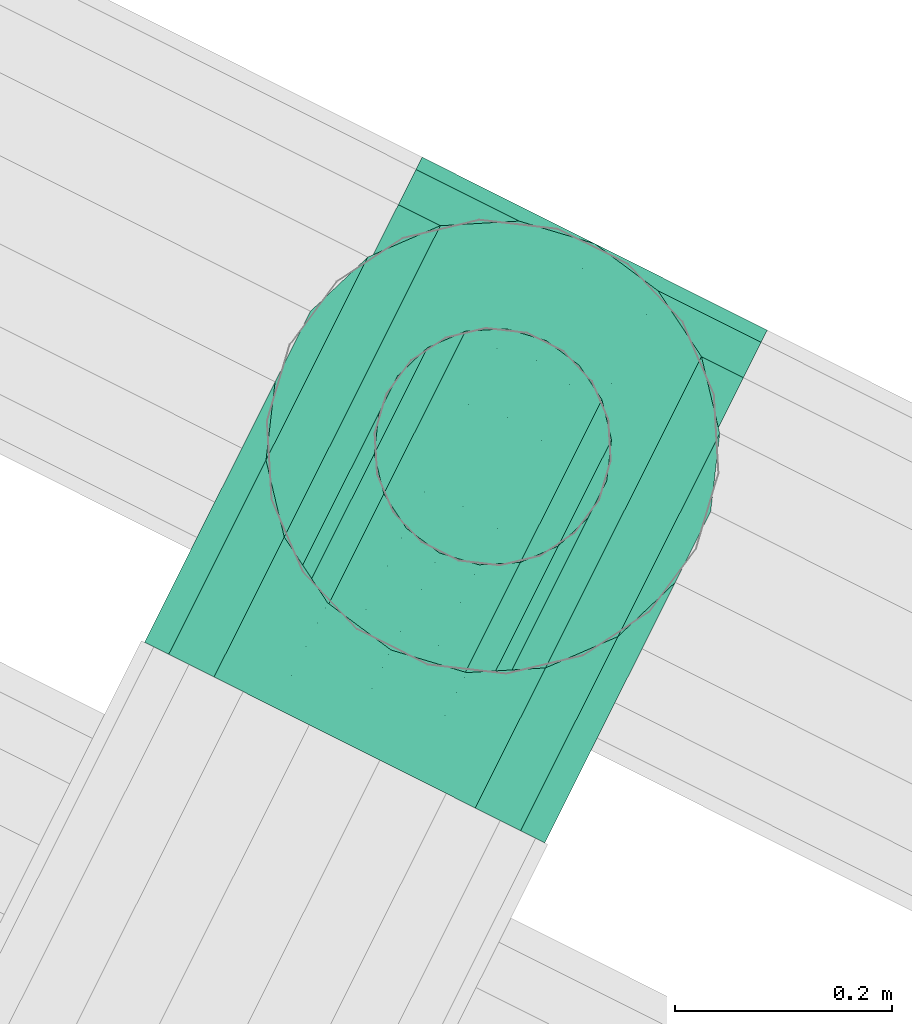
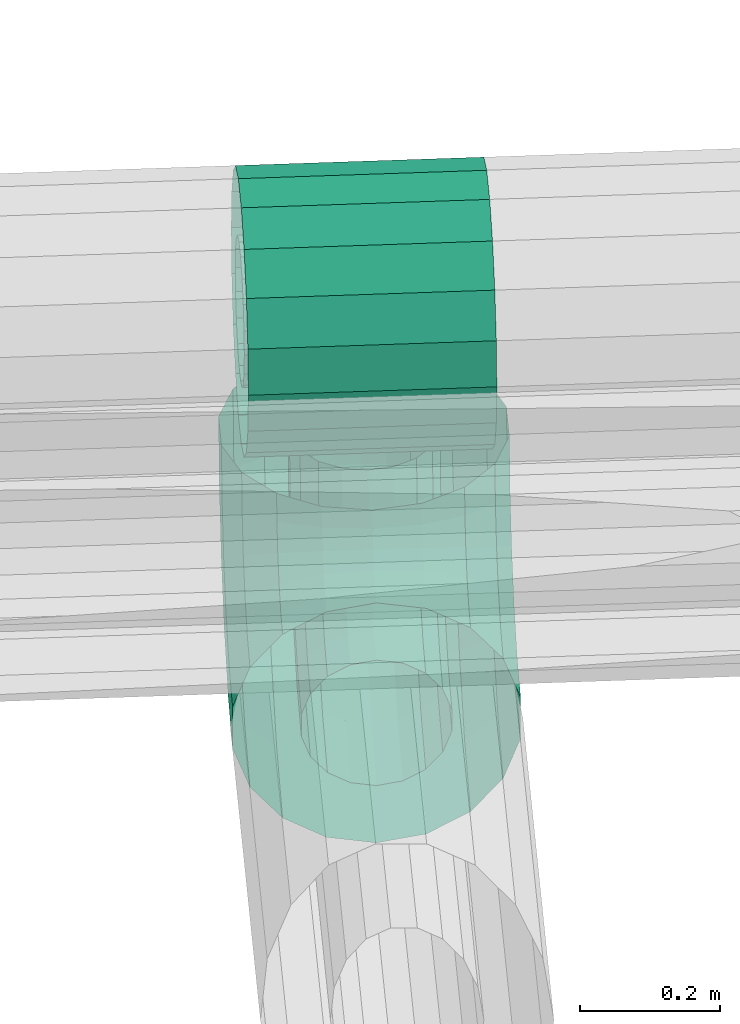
# One storey, part 83 of 152: 1 flow fitting, 1 flow segment.
"""IFC2X3 building model written with IfcOpenShell, lengths in metres."""

from ifc_helpers import new_model, si_unit, derived_unit, direction, frame, origin, place, context, subcontext, project, spatial, face_set, surface_model, source, transform, mapped, material, type_object, type_shapes, element, save


model = new_model("IFC2X3")

# Units and contexts
model_context = context("Model", 3, precision=5.2338327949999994e-05, world=origin(), true_north=direction((0.0, 1.0)))
body_context = subcontext(model_context, "Body", "Model", "MODEL_VIEW")
ifc_project = project(units=[si_unit("LENGTHUNIT", "METRE"), si_unit("AREAUNIT", "SQUARE_METRE"), si_unit("VOLUMEUNIT", "CUBIC_METRE"), si_unit("MASSUNIT", "GRAM", prefix="KILO"), si_unit("PLANEANGLEUNIT", "RADIAN"), derived_unit("THERMALTRANSMITTANCEUNIT", [(si_unit("MASSUNIT", "GRAM", prefix="KILO"), 1), (si_unit("THERMODYNAMICTEMPERATUREUNIT", "KELVIN"), -1), (si_unit("TIMEUNIT", "SECOND"), -3)])], contexts=[model_context])

# Site, building, storey
site_placement = place(None, frame((0.0, 0.0, 0.0), z_axis=(0.0, 0.0, 1.0), x_axis=(0.8939966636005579, -0.4480736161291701, 0.0)))
site = spatial("IfcSite", under=ifc_project, at=site_placement, Name="Default", CompositionType="ELEMENT")
building_placement = place(site_placement, origin())
building = spatial("IfcBuilding", under=site, at=building_placement, CompositionType="ELEMENT")
storey_placement = place(building_placement, frame((0.0, 0.0, 2.7499999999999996)))
storey = spatial("IfcBuildingStorey", under=building, at=storey_placement, Name="1. Obergeschoss", CompositionType="ELEMENT", Elevation=2.7499999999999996)

# Flow fitting
ifc_material = material(Name="IfcSurfaceStyle #1741")
distribution_element_type_1 = type_object("IfcDistributionElementType", Name="Abzweigstück 249742:Abzweigstück 249742", material=ifc_material)
shared_shape_1 = source(origin(), body_context, "Body", "SurfaceModel", [
    surface_model("IfcFaceBasedSurfaceModel", [(28.723924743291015, 11.740486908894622, 5.635640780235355), (28.723924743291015, 11.747093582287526, 5.673109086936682), (28.367924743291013, 11.747093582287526, 5.673109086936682), (28.367924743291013, 11.740486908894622, 5.635640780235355), (28.723924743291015, 11.76611674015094, 5.706058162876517), (28.367924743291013, 11.76611674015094, 5.706058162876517), (28.723924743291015, 11.795261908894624, 5.730513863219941), (28.367924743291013, 11.795261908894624, 5.730513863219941), (28.723924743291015, 11.83101375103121, 5.743526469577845), (28.367924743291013, 11.83101375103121, 5.743526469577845), (28.723924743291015, 11.869060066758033, 5.743526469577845), (28.367924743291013, 11.869060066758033, 5.743526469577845), (28.723924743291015, 11.904811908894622, 5.730513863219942), (28.367924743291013, 11.904811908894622, 5.730513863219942), (28.723924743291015, 11.93395707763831, 5.706058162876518), (28.367924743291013, 11.93395707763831, 5.706058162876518), (28.723924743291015, 11.952980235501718, 5.673109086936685), (28.367924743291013, 11.952980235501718, 5.673109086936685), (28.723924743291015, 11.959586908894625, 5.635640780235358), (28.367924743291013, 11.959586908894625, 5.635640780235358), (28.723924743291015, 11.95298023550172, 5.5981724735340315), (28.367924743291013, 11.95298023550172, 5.5981724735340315), (28.723924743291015, 11.93395707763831, 5.565223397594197), (28.367924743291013, 11.93395707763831, 5.565223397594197), (28.723924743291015, 11.904811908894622, 5.540767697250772), (28.367924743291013, 11.904811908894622, 5.540767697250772), (28.723924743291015, 11.869060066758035, 5.52775509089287), (28.367924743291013, 11.869060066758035, 5.52775509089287), (28.723924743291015, 11.831013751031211, 5.52775509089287), (28.367924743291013, 11.831013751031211, 5.52775509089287), (28.723924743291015, 11.795261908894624, 5.540767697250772), (28.367924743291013, 11.795261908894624, 5.540767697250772), (28.723924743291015, 11.76611674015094, 5.5652233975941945), (28.367924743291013, 11.76611674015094, 5.5652233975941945), (28.723924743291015, 11.747093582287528, 5.598172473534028), (28.367924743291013, 11.747093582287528, 5.598172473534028), (28.723924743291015, 11.640486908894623, 5.635640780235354), (28.723924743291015, 11.653124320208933, 5.707311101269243), (28.367924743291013, 11.653124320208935, 5.707311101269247), (28.367924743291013, 11.640486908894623, 5.635640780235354), (28.723924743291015, 11.689512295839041, 5.770336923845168), (28.367924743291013, 11.689512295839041, 5.770336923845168), (28.723924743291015, 11.745261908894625, 5.8171164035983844), (28.367924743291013, 11.745261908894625, 5.8171164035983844), (28.723924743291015, 11.813648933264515, 5.842007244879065), (28.367924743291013, 11.813648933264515, 5.842007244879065), (28.723924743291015, 11.886424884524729, 5.842007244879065), (28.367924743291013, 11.886424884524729, 5.842007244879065), (28.723924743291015, 11.954811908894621, 5.817116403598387), (28.367924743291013, 11.954811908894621, 5.817116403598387), (28.723924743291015, 12.010561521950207, 5.770336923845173), (28.367924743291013, 12.010561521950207, 5.770336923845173), (28.723924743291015, 12.04694949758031, 5.707311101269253), (28.367924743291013, 12.04694949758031, 5.707311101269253), (28.723924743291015, 12.059586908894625, 5.635640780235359), (28.367924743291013, 12.059586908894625, 5.635640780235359), (28.723924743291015, 12.04694949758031, 5.563970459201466), (28.367924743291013, 12.04694949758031, 5.563970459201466), (28.723924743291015, 12.010561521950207, 5.500944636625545), (28.367924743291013, 12.010561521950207, 5.500944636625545), (28.723924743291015, 11.954811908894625, 5.454165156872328), (28.367924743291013, 11.954811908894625, 5.454165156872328), (28.723924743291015, 11.88642488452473, 5.429274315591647), (28.367924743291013, 11.88642488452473, 5.429274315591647), (28.723924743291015, 11.813648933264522, 5.429274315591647), (28.367924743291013, 11.813648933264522, 5.429274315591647), (28.723924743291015, 11.745261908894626, 5.4541651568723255), (28.367924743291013, 11.745261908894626, 5.4541651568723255), (28.723924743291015, 11.689512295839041, 5.50094463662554), (28.367924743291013, 11.689512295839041, 5.50094463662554), (28.723924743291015, 11.653124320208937, 5.563970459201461), (28.367924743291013, 11.653124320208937, 5.563970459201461), (28.436374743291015, 11.850036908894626, 5.526090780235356), (28.442981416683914, 11.88750521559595, 5.532697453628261), (28.44298141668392, 11.887505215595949, 5.457640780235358), (28.436374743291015, 11.850036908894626, 5.457640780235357), (28.462004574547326, 11.920454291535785, 5.551720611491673), (28.462004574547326, 11.920454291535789, 5.457640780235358), (28.491149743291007, 11.94490999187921, 5.580865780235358), (28.49114974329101, 11.944909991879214, 5.457640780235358), (28.5269015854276, 11.957922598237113, 5.616617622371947), (28.5269015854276, 11.957922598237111, 5.457640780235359), (28.564947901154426, 11.957922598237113, 5.616617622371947), (28.564947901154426, 11.957922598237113, 5.457640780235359), (28.600699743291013, 11.944909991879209, 5.580865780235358), (28.600699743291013, 11.94490999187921, 5.457640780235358), (28.6298449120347, 11.920454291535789, 5.551720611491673), (28.629844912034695, 11.920454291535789, 5.457640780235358), (28.64886806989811, 11.887505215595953, 5.532697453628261), (28.648868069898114, 11.887505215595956, 5.457640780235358), (28.655474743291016, 11.850036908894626, 5.526090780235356), (28.655474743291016, 11.850036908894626, 5.457640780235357), (28.64886806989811, 11.812568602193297, 5.532697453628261), (28.64886806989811, 11.812568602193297, 5.457640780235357), (28.629844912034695, 11.779619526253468, 5.551720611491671), (28.629844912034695, 11.779619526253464, 5.457640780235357), (28.600699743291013, 11.755163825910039, 5.580865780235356), (28.600699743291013, 11.755163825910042, 5.457640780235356), (28.564947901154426, 11.742151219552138, 5.616617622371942), (28.564947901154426, 11.74215121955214, 5.457640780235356), (28.5269015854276, 11.74215121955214, 5.616617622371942), (28.5269015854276, 11.742151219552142, 5.457640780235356), (28.49114974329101, 11.755163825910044, 5.580865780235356), (28.49114974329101, 11.755163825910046, 5.457640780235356), (28.462004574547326, 11.779619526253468, 5.551720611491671), (28.462004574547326, 11.779619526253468, 5.457640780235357), (28.44298141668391, 11.812568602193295, 5.532697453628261), (28.44298141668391, 11.812568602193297, 5.457640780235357)], [face_set([[[0, 1, 2, 3]], [[1, 4, 5, 2]], [[4, 6, 7, 5]], [[6, 8, 9, 7]], [[8, 10, 11, 9]], [[10, 12, 13, 11]], [[12, 14, 15, 13]], [[14, 16, 17, 15]], [[16, 18, 19, 17]], [[18, 20, 21, 19]], [[20, 22, 23, 21]], [[22, 24, 25, 23]], [[24, 26, 27, 25]], [[26, 28, 29, 27]], [[28, 30, 31, 29]], [[30, 32, 33, 31]], [[32, 34, 35, 33]], [[34, 0, 3, 35]], [[36, 37, 38, 39]], [[37, 40, 41, 38]], [[40, 42, 43, 41]], [[42, 44, 45, 43]], [[44, 46, 47, 45]], [[46, 48, 49, 47]], [[48, 50, 51, 49]], [[50, 52, 53, 51]], [[52, 54, 55, 53]], [[54, 56, 57, 55]], [[56, 58, 59, 57]], [[58, 60, 61, 59]], [[60, 62, 63, 61]], [[62, 64, 65, 63]], [[64, 66, 67, 65]], [[66, 68, 69, 67]], [[68, 70, 71, 69]], [[70, 36, 39, 71]], [[72, 73, 74, 75]], [[73, 76, 77, 74]], [[76, 78, 79, 77]], [[78, 80, 81, 79]], [[80, 82, 83, 81]], [[82, 84, 85, 83]], [[84, 86, 87, 85]], [[86, 88, 89, 87]], [[88, 90, 91, 89]], [[90, 92, 93, 91]], [[92, 94, 95, 93]], [[94, 96, 97, 95]], [[96, 98, 99, 97]], [[98, 100, 101, 99]], [[100, 102, 103, 101]], [[102, 104, 105, 103]], [[104, 106, 107, 105]], [[106, 72, 75, 107]]])]),
])
type_shapes(distribution_element_type_1, [shared_shape_1])
flow_fitting_placement = place(storey_placement, frame((0.0, 0.0, -2.7499999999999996)))
element("IfcFlowFitting", 1, at=flow_fitting_placement, inside=storey, type_object=distribution_element_type_1, material=ifc_material, Name="Abzweigstück", ObjectType="Abzweigstück", context=body_context, shape_type="MappedRepresentation", body=[
    mapped(shared_shape_1, transform((0.0, 0.0, 0.0), scale=1.0)),
])

# Flow segment
distribution_element_type_2 = type_object("IfcDistributionElementType", Name="Rohrbogen 349566:Rohrbogen 349566", material=ifc_material)
shared_shape_2 = source(origin(), body_context, "Body", "SurfaceModel", [
    surface_model("IfcFaceBasedSurfaceModel", [(28.54592474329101, 11.959586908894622, 5.427997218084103), (28.583393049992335, 11.952980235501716, 5.427997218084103), (28.583393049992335, 11.933014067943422, 5.3019357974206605), (28.54592474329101, 11.93929738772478, 5.2998942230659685), (28.583393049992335, 11.875069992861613, 5.188214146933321), (28.54592474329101, 11.880414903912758, 5.184330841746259), (28.58339304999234, 11.784819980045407, 5.097964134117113), (28.54592474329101, 11.788703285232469, 5.092619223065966), (28.583393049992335, 11.671098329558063, 5.040020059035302), (28.54592474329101, 11.673139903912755, 5.033736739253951), (28.583393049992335, 11.54503690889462, 5.020053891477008), (28.54592474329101, 11.54503690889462, 5.013447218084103), (28.616342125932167, 11.933957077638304, 5.427997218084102), (28.616342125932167, 11.914921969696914, 5.307814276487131), (28.616342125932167, 11.859679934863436, 5.199395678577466), (28.61634212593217, 11.773638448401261, 5.113354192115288), (28.61634212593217, 11.665219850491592, 5.0581121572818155), (28.61634212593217, 11.54503690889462, 5.039077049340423), (28.640797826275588, 11.904811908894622, 5.427997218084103), (28.6407978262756, 11.887203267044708, 5.316820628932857), (28.6407978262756, 11.836100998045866, 5.21652677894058), (28.640797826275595, 11.756507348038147, 5.136933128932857), (28.640797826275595, 11.656213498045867, 5.085830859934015), (28.640797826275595, 11.54503690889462, 5.068222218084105), (28.6538104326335, 11.869060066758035, 5.427997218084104), (28.6538104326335, 11.853201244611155, 5.327868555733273), (28.653810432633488, 11.807177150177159, 5.237541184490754), (28.6538104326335, 11.735492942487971, 5.1658569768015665), (28.653810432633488, 11.645165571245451, 5.119832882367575), (28.6538104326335, 11.54503690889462, 5.1039740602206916), (28.6538104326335, 11.83101375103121, 5.427997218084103), (28.6538104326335, 11.817017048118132, 5.339625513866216), (28.65381043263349, 11.776397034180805, 5.259904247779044), (28.653810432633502, 11.713129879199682, 5.196637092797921), (28.65381043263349, 11.633408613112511, 5.156017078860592), (28.653810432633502, 11.54503690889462, 5.142020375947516), (28.6407978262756, 11.795261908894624, 5.427997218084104), (28.6407978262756, 11.783015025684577, 5.350673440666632), (28.6407978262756, 11.747473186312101, 5.28091865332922), (28.6407978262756, 11.692115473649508, 5.225560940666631), (28.6407978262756, 11.622360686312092, 5.190019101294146), (28.640797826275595, 11.545036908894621, 5.177772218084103), (28.616342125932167, 11.76611674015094, 5.427997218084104), (28.61634212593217, 11.755296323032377, 5.359679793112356), (28.61634212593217, 11.723894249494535, 5.298049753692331), (28.616342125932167, 11.674984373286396, 5.249139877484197), (28.616342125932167, 11.61335433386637, 5.217737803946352), (28.616342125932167, 11.545036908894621, 5.206917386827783), (28.58339304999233, 11.747093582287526, 5.427997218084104), (28.583393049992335, 11.737204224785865, 5.365558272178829), (28.583393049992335, 11.708504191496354, 5.3092312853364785), (28.583393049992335, 11.66380284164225, 5.264529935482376), (28.583393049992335, 11.607475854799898, 5.2358299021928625), (28.583393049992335, 11.545036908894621, 5.225940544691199), (28.54592474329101, 11.740486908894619, 5.427997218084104), (28.54592474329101, 11.730920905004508, 5.367599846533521), (28.54592474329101, 11.703159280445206, 5.31311459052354), (28.54592474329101, 11.65991953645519, 5.269874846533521), (28.54592474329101, 11.605434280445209, 5.242113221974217), (28.54592474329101, 11.545036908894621, 5.232547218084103), (28.508456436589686, 11.747093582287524, 5.427997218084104), (28.508456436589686, 11.737204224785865, 5.365558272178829), (28.508456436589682, 11.708504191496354, 5.309231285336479), (28.508456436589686, 11.663802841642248, 5.264529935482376), (28.508456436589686, 11.607475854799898, 5.235829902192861), (28.508456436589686, 11.545036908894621, 5.225940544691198), (28.47550736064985, 11.766116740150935, 5.427997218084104), (28.475507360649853, 11.755296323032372, 5.359679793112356), (28.47550736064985, 11.723894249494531, 5.298049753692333), (28.47550736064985, 11.674984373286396, 5.249139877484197), (28.475507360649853, 11.61335433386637, 5.217737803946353), (28.475507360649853, 11.54503690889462, 5.206917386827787), (28.451051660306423, 11.795261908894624, 5.427997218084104), (28.451051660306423, 11.78301502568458, 5.350673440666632), (28.451051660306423, 11.747473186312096, 5.28091865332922), (28.451051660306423, 11.692115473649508, 5.22556094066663), (28.45105166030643, 11.622360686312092, 5.190019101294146), (28.451051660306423, 11.545036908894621, 5.177772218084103), (28.438039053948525, 11.831013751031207, 5.427997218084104), (28.43803905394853, 11.81701704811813, 5.339625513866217), (28.438039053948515, 11.776397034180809, 5.259904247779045), (28.438039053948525, 11.713129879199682, 5.196637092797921), (28.43803905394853, 11.633408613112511, 5.156017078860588), (28.438039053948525, 11.54503690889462, 5.142020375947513), (28.438039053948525, 11.869060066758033, 5.427997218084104), (28.438039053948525, 11.853201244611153, 5.327868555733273), (28.438039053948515, 11.807177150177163, 5.237541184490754), (28.43803905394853, 11.735492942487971, 5.1658569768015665), (28.438039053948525, 11.645165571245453, 5.119832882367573), (28.43803905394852, 11.54503690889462, 5.1039740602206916), (28.451051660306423, 11.90481190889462, 5.427997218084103), (28.451051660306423, 11.887203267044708, 5.316820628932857), (28.451051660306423, 11.836100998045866, 5.21652677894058), (28.451051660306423, 11.756507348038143, 5.136933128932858), (28.451051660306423, 11.656213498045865, 5.085830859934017), (28.451051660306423, 11.545036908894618, 5.068222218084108), (28.475507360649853, 11.933957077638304, 5.427997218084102), (28.475507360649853, 11.914921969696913, 5.307814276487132), (28.475507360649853, 11.859679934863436, 5.199395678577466), (28.47550736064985, 11.773638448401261, 5.113354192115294), (28.475507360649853, 11.665219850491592, 5.058112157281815), (28.475507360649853, 11.54503690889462, 5.039077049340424), (28.508456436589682, 11.952980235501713, 5.427997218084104), (28.508456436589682, 11.93301406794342, 5.3019357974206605), (28.508456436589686, 11.875069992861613, 5.188214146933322), (28.508456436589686, 11.784819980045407, 5.097964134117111), (28.508456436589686, 11.671098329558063, 5.040020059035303), (28.508456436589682, 11.54503690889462, 5.020053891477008), (28.54592474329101, 12.059586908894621, 5.427997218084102), (28.617595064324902, 12.04694949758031, 5.427997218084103), (28.617595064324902, 12.022384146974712, 5.272897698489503), (28.54592474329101, 12.034403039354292, 5.268992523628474), (28.617595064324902, 11.951092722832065, 5.132980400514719), (28.545924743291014, 11.961316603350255, 5.125552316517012), (28.617595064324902, 11.840053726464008, 5.02194140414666), (28.54592474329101, 11.847481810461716, 5.011717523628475), (28.617595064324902, 11.700136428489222, 4.950649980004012), (28.54592474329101, 11.704041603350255, 4.938631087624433), (28.617595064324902, 11.54503690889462, 4.926084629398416), (28.54592474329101, 11.54503690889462, 4.9134472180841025), (28.68062088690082, 12.010561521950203, 5.427997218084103), (28.680620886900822, 11.987777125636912, 5.284142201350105), (28.680620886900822, 11.921654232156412, 5.154368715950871), (28.680620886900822, 11.818665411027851, 5.051379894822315), (28.680620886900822, 11.688891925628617, 4.985257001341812), (28.680620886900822, 11.545036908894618, 4.962472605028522), (28.727400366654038, 11.95481190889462, 5.427997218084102), (28.727400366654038, 11.93475609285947, 5.301369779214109), (28.72740036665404, 11.876551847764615, 5.187137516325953), (28.72740036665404, 11.785896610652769, 5.096482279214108), (28.72740036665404, 11.671664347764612, 5.038278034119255), (28.727400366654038, 11.545036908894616, 5.018222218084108), (28.75229120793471, 11.886424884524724, 5.427997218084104), (28.75229120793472, 11.869716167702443, 5.32250253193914), (28.75229120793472, 11.821225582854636, 5.227334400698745), (28.75229120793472, 11.745699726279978, 5.151808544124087), (28.75229120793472, 11.650531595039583, 5.103317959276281), (28.752291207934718, 11.54503690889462, 5.086609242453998), (28.752291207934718, 11.813648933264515, 5.427997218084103), (28.752291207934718, 11.800502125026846, 5.344991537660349), (28.752291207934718, 11.762348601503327, 5.270111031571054), (28.752291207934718, 11.702923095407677, 5.210685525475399), (28.752291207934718, 11.628042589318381, 5.172532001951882), (28.75229120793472, 11.545036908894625, 5.159385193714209), (28.727400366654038, 11.745261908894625, 5.427997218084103), (28.727400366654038, 11.735462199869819, 5.366124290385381), (28.727400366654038, 11.707022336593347, 5.310307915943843), (28.72740036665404, 11.662726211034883, 5.266011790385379), (28.727400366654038, 11.606909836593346, 5.237571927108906), (28.727400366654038, 11.54503690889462, 5.227772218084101), (28.68062088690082, 11.68951229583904, 5.427997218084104), (28.68062088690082, 11.682441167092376, 5.383351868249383), (28.68062088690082, 11.66191995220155, 5.343076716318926), (28.680620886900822, 11.629957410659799, 5.311114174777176), (28.680620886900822, 11.589682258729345, 5.290592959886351), (28.680620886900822, 11.54503690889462, 5.283521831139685), (28.617595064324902, 11.653124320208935, 5.427997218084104), (28.617595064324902, 11.647834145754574, 5.394596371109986), (28.617595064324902, 11.632481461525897, 5.364465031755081), (28.61759506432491, 11.608569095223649, 5.340552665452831), (28.617595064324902, 11.578437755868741, 5.325199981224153), (28.617595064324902, 11.54503690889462, 5.319909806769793), (28.54592474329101, 11.640486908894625, 5.427997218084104), (28.54592474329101, 11.635815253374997, 5.398501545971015), (28.54592474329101, 11.62225758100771, 5.371893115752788), (28.54592474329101, 11.601141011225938, 5.350776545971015), (28.54592474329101, 11.57453258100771, 5.3372188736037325), (28.54592474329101, 11.545036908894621, 5.332547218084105), (28.47425442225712, 11.653124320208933, 5.427997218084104), (28.47425442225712, 11.647834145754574, 5.394596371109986), (28.47425442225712, 11.632481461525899, 5.3644650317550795), (28.47425442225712, 11.608569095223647, 5.34055266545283), (28.47425442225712, 11.578437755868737, 5.325199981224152), (28.47425442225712, 11.54503690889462, 5.319909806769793), (28.411228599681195, 11.689512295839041, 5.427997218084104), (28.411228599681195, 11.682441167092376, 5.383351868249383), (28.411228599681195, 11.661919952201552, 5.343076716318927), (28.4112285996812, 11.629957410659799, 5.311114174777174), (28.4112285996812, 11.589682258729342, 5.290592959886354), (28.411228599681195, 11.54503690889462, 5.283521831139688), (28.36444911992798, 11.74526190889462, 5.427997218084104), (28.364449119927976, 11.735462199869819, 5.366124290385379), (28.364449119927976, 11.707022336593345, 5.310307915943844), (28.36444911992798, 11.662726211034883, 5.266011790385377), (28.36444911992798, 11.606909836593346, 5.237571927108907), (28.364449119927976, 11.54503690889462, 5.227772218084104), (28.339558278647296, 11.813648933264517, 5.427997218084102), (28.3395582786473, 11.800502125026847, 5.344991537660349), (28.339558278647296, 11.762348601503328, 5.270111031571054), (28.339558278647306, 11.702923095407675, 5.210685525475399), (28.3395582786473, 11.62804258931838, 5.172532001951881), (28.339558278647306, 11.545036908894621, 5.159385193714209), (28.3395582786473, 11.886424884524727, 5.427997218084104), (28.339558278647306, 11.869716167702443, 5.32250253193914), (28.3395582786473, 11.821225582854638, 5.227334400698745), (28.339558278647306, 11.745699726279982, 5.151808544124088), (28.3395582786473, 11.650531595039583, 5.103317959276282), (28.33955827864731, 11.545036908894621, 5.086609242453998), (28.364449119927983, 11.954811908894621, 5.427997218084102), (28.36444911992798, 11.934756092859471, 5.301369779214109), (28.364449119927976, 11.876551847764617, 5.1871375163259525), (28.36444911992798, 11.785896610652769, 5.096482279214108), (28.36444911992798, 11.671664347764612, 5.038278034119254), (28.364449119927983, 11.545036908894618, 5.018222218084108), (28.4112285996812, 12.010561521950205, 5.427997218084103), (28.4112285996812, 11.987777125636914, 5.284142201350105), (28.411228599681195, 11.921654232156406, 5.154368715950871), (28.411228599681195, 11.818665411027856, 5.051379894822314), (28.4112285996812, 11.688891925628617, 4.985257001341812), (28.411228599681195, 11.54503690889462, 4.962472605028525), (28.47425442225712, 12.046949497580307, 5.427997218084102), (28.474254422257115, 12.02238414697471, 5.272897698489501), (28.47425442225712, 11.951092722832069, 5.132980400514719), (28.474254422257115, 11.840053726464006, 5.021941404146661), (28.47425442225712, 11.700136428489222, 4.950649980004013), (28.47425442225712, 11.54503690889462, 4.926084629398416)], [face_set([[[0, 1, 2, 3]], [[3, 2, 4, 5]], [[5, 4, 6, 7]], [[7, 6, 8, 9]], [[9, 8, 10, 11]], [[1, 12, 13, 2]], [[2, 13, 14, 4]], [[4, 14, 15, 6]], [[6, 15, 16, 8]], [[8, 16, 17, 10]], [[12, 18, 19, 13]], [[13, 19, 20, 14]], [[14, 20, 21, 15]], [[15, 21, 22, 16]], [[16, 22, 23, 17]], [[18, 24, 25, 19]], [[19, 25, 26, 20]], [[20, 26, 27, 21]], [[21, 27, 28, 22]], [[22, 28, 29, 23]], [[24, 30, 31, 25]], [[25, 31, 32, 26]], [[26, 32, 33, 27]], [[27, 33, 34, 28]], [[28, 34, 35, 29]], [[30, 36, 37, 31]], [[31, 37, 38, 32]], [[32, 38, 39, 33]], [[33, 39, 40, 34]], [[34, 40, 41, 35]], [[36, 42, 43, 37]], [[37, 43, 44, 38]], [[38, 44, 45, 39]], [[39, 45, 46, 40]], [[40, 46, 47, 41]], [[42, 48, 49, 43]], [[43, 49, 50, 44]], [[44, 50, 51, 45]], [[45, 51, 52, 46]], [[46, 52, 53, 47]], [[48, 54, 55, 49]], [[49, 55, 56, 50]], [[50, 56, 57, 51]], [[51, 57, 58, 52]], [[52, 58, 59, 53]], [[54, 60, 61, 55]], [[55, 61, 62, 56]], [[56, 62, 63, 57]], [[57, 63, 64, 58]], [[58, 64, 65, 59]], [[60, 66, 67, 61]], [[61, 67, 68, 62]], [[62, 68, 69, 63]], [[63, 69, 70, 64]], [[64, 70, 71, 65]], [[66, 72, 73, 67]], [[67, 73, 74, 68]], [[68, 74, 75, 69]], [[69, 75, 76, 70]], [[70, 76, 77, 71]], [[72, 78, 79, 73]], [[73, 79, 80, 74]], [[74, 80, 81, 75]], [[75, 81, 82, 76]], [[76, 82, 83, 77]], [[78, 84, 85, 79]], [[79, 85, 86, 80]], [[80, 86, 87, 81]], [[81, 87, 88, 82]], [[82, 88, 89, 83]], [[84, 90, 91, 85]], [[85, 91, 92, 86]], [[86, 92, 93, 87]], [[87, 93, 94, 88]], [[88, 94, 95, 89]], [[90, 96, 97, 91]], [[91, 97, 98, 92]], [[92, 98, 99, 93]], [[93, 99, 100, 94]], [[94, 100, 101, 95]], [[96, 102, 103, 97]], [[97, 103, 104, 98]], [[98, 104, 105, 99]], [[99, 105, 106, 100]], [[100, 106, 107, 101]], [[102, 0, 3, 103]], [[103, 3, 5, 104]], [[104, 5, 7, 105]], [[105, 7, 9, 106]], [[106, 9, 11, 107]], [[108, 109, 110, 111]], [[111, 110, 112, 113]], [[113, 112, 114, 115]], [[115, 114, 116, 117]], [[117, 116, 118, 119]], [[109, 120, 121, 110]], [[110, 121, 122, 112]], [[112, 122, 123, 114]], [[114, 123, 124, 116]], [[116, 124, 125, 118]], [[120, 126, 127, 121]], [[121, 127, 128, 122]], [[122, 128, 129, 123]], [[123, 129, 130, 124]], [[124, 130, 131, 125]], [[126, 132, 133, 127]], [[127, 133, 134, 128]], [[128, 134, 135, 129]], [[129, 135, 136, 130]], [[130, 136, 137, 131]], [[132, 138, 139, 133]], [[133, 139, 140, 134]], [[134, 140, 141, 135]], [[135, 141, 142, 136]], [[136, 142, 143, 137]], [[138, 144, 145, 139]], [[139, 145, 146, 140]], [[140, 146, 147, 141]], [[141, 147, 148, 142]], [[142, 148, 149, 143]], [[144, 150, 151, 145]], [[145, 151, 152, 146]], [[146, 152, 153, 147]], [[147, 153, 154, 148]], [[148, 154, 155, 149]], [[150, 156, 157, 151]], [[151, 157, 158, 152]], [[152, 158, 159, 153]], [[153, 159, 160, 154]], [[154, 160, 161, 155]], [[156, 162, 163, 157]], [[157, 163, 164, 158]], [[158, 164, 165, 159]], [[159, 165, 166, 160]], [[160, 166, 167, 161]], [[162, 168, 169, 163]], [[163, 169, 170, 164]], [[164, 170, 171, 165]], [[165, 171, 172, 166]], [[166, 172, 173, 167]], [[168, 174, 175, 169]], [[169, 175, 176, 170]], [[170, 176, 177, 171]], [[171, 177, 178, 172]], [[172, 178, 179, 173]], [[174, 180, 181, 175]], [[175, 181, 182, 176]], [[176, 182, 183, 177]], [[177, 183, 184, 178]], [[178, 184, 185, 179]], [[180, 186, 187, 181]], [[181, 187, 188, 182]], [[182, 188, 189, 183]], [[183, 189, 190, 184]], [[184, 190, 191, 185]], [[186, 192, 193, 187]], [[187, 193, 194, 188]], [[188, 194, 195, 189]], [[189, 195, 196, 190]], [[190, 196, 197, 191]], [[192, 198, 199, 193]], [[193, 199, 200, 194]], [[194, 200, 201, 195]], [[195, 201, 202, 196]], [[196, 202, 203, 197]], [[198, 204, 205, 199]], [[199, 205, 206, 200]], [[200, 206, 207, 201]], [[201, 207, 208, 202]], [[202, 208, 209, 203]], [[204, 210, 211, 205]], [[205, 211, 212, 206]], [[206, 212, 213, 207]], [[207, 213, 214, 208]], [[208, 214, 215, 209]], [[210, 108, 111, 211]], [[211, 111, 113, 212]], [[212, 113, 115, 213]], [[213, 115, 117, 214]], [[214, 117, 119, 215]]])]),
])
type_shapes(distribution_element_type_2, [shared_shape_2])
flow_segment_placement = place(storey_placement, frame((0.0, 0.0, -2.7499999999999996)))
element("IfcFlowSegment", 2, at=flow_segment_placement, inside=storey, type_object=distribution_element_type_2, material=ifc_material, Name="Rohrbogen", ObjectType="Rohrbogen", context=body_context, shape_type="MappedRepresentation", body=[
    mapped(shared_shape_2, transform((0.0, 0.0, 0.0), scale=1.0)),
])

save(model, "model.ifc")
